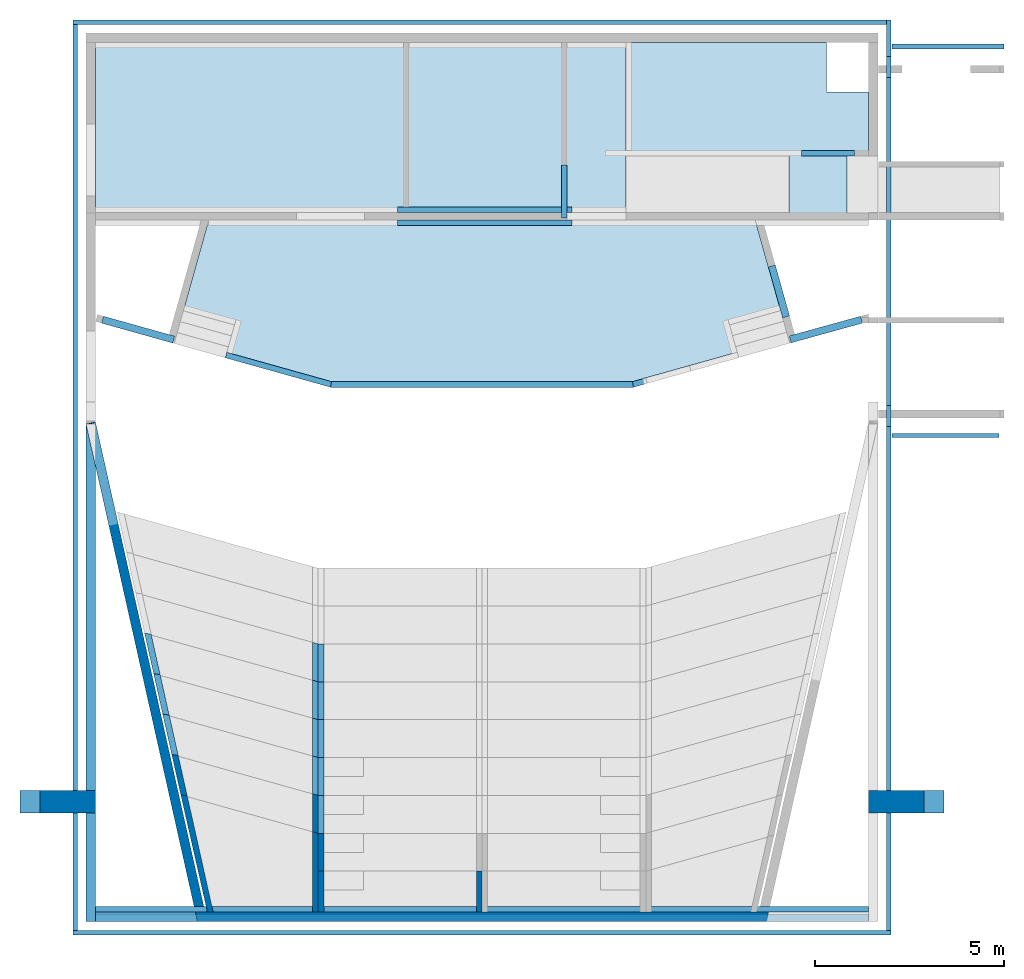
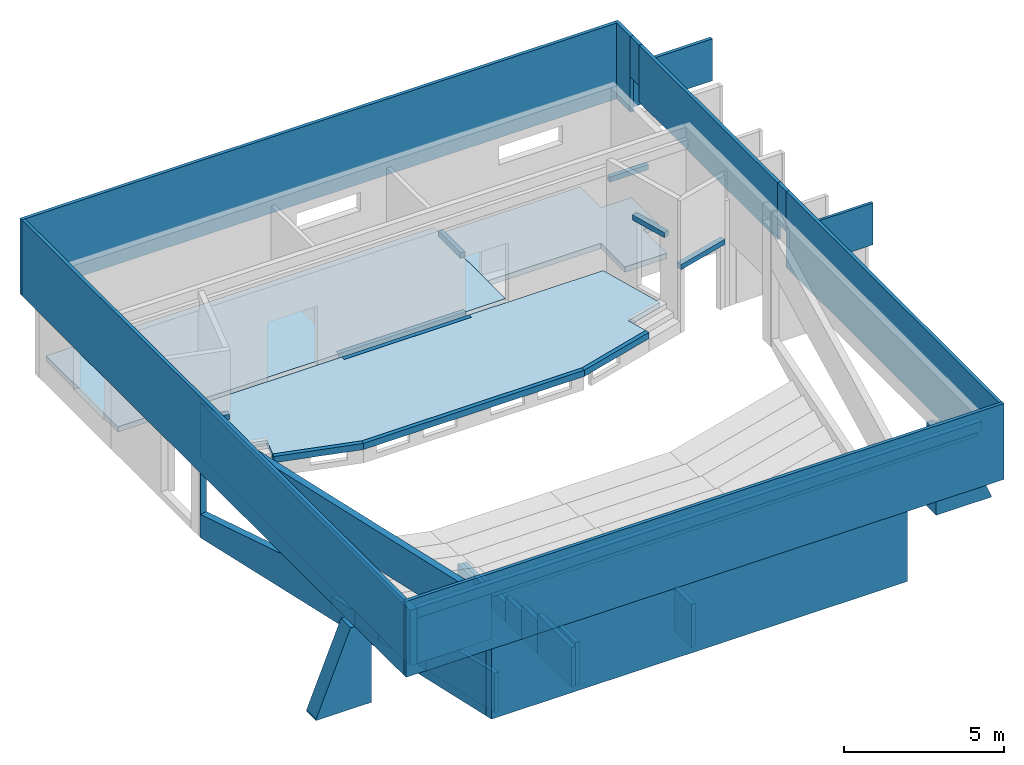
# One storey, part 1 of 5: 25 walls, 20 beams, 3 slabs, 2 columns, 1 opening.
"""IFC4 building model written with IfcOpenShell, lengths in metres."""

from ifc_helpers import new_model, entity, si_unit, converted_unit, derived_unit, frame, frame_2d, origin, origin_with_axes, place, context, subcontext, project, spatial, polyline, rectangle, outline, extrude, faceted_brep, material, element, save


model = new_model("IFC4")

# Units and contexts
model_context = context("Model", 3, precision=1e-05, world=origin())
plan_context = context("Plan", 2, precision=1e-05, world=origin())
body_context = subcontext(model_context, "Body", "Model", "MODEL_VIEW")
ifc_project = project(units=[si_unit("LENGTHUNIT", "METRE"), si_unit("AREAUNIT", "SQUARE_METRE"), si_unit("VOLUMEUNIT", "CUBIC_METRE"), si_unit("MASSUNIT", "GRAM", prefix="KILO"), converted_unit("PLANEANGLEUNIT", "DEGREE", entity("IfcPlaneAngleMeasure", 0.0174532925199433), si_unit("PLANEANGLEUNIT", "RADIAN"), dimensions=[0, 0, 0, 0, 0, 0, 0]), derived_unit("THERMALTRANSMITTANCEUNIT", [(si_unit("POWERUNIT", "WATT"), 1), (si_unit("THERMODYNAMICTEMPERATUREUNIT", "KELVIN"), -1), (si_unit("LENGTHUNIT", "METRE"), -2)]), derived_unit("VOLUMETRICFLOWRATEUNIT", [(si_unit("LENGTHUNIT", "METRE"), 3), (converted_unit("TIMEUNIT", "hour", entity("IfcTimeMeasure", 3600.0), si_unit("TIMEUNIT", "SECOND"), dimensions=[0, 0, 1, 0, 0, 0, 0]), -1), (si_unit("LENGTHUNIT", "METRE"), -1)])], contexts=[model_context, plan_context])

# Site, building, storey
site_placement = place(None, origin())
site = spatial("IfcSite", under=ifc_project, at=site_placement, Name="Site", CompositionType="ELEMENT")
building_placement = place(site_placement, origin())
building = spatial("IfcBuilding", under=site, at=building_placement, Name="Auditorium", CompositionType="ELEMENT")
storey_placement = place(building_placement, frame((0.0, 0.0, -0.26)))
storey = spatial("IfcBuildingStorey", under=building, at=storey_placement, Name="00-Rez", CompositionType="ELEMENT", Elevation=-0.26)

# Columns
ifc_material_1 = material(Name="Béton architectonique")
column_1_placement = place(storey_placement, frame((-1.99551190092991, 2.61, -0.15)))
element("IfcColumn", 1, at=column_1_placement, inside=storey, material=ifc_material_1, Name="Totem Audit.", PredefinedType="NOTDEFINED", context=body_context, shape_type="Brep", body=[
    faceted_brep([(0.0, 0.6, 0.0500000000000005), (0.0, 0.6, 2.27373675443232e-16), (1.9953125, 0.6, 0.0), (1.9953125, 0.6, 3.21), (1.7453125, 0.6, 3.21), (1.7453125, 0.6, 3.11), (1.2453125, 0.6, 3.11), (0.0, 0.0, 0.0500000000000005), (1.2453125, 0.0, 3.11), (1.7453125, 0.0, 3.11), (1.7453125, 0.0, 3.21), (1.9953125, 0.0, 3.21), (1.9953125, 0.0, 0.0), (0.0, 0.0, 2.27373675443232e-16)], [[[0, 1, 2, 3, 4, 5, 6]], [[7, 8, 9, 10, 11, 12, 13]], [[13, 1, 0, 7]], [[12, 2, 1, 13]], [[11, 3, 2, 12]], [[10, 4, 3, 11]], [[9, 5, 4, 10]], [[8, 6, 5, 9]], [[7, 0, 6, 8]]], orient=[[False], [False], [False], [False], [False], [False], [False], [False], [False]]),
])
ifc_material_2 = material(Name="Béton architectonique")
column_2_placement = place(storey_placement, frame((20.3998005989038, 2.60999999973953, -0.15)))
element("IfcColumn", 2, at=column_2_placement, inside=storey, material=ifc_material_2, Name="Totem Audit.", PredefinedType="NOTDEFINED", context=body_context, shape_type="Brep", body=[
    faceted_brep([(1.9953125, 0.6, 0.0500000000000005), (0.75, 0.6, 3.11), (0.25, 0.6, 3.11), (0.25, 0.6, 3.21), (0.0, 0.6, 3.21), (0.0, 0.6, 0.0), (1.9953125, 0.6, 2.27373675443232e-16), (1.9953125, 0.0, 0.0500000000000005), (1.9953125, 0.0, 2.27373675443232e-16), (0.0, 0.0, 0.0), (0.0, 0.0, 3.21), (0.25, 0.0, 3.21), (0.25, 0.0, 3.11), (0.75, 0.0, 3.11)], [[[0, 1, 2, 3, 4, 5, 6]], [[7, 8, 9, 10, 11, 12, 13]], [[13, 1, 0, 7]], [[12, 2, 1, 13]], [[11, 3, 2, 12]], [[10, 4, 3, 11]], [[9, 5, 4, 10]], [[8, 6, 5, 9]], [[7, 0, 6, 8]]], orient=[[False], [False], [False], [False], [False], [False], [False], [False], [False]]),
])

# Beams
ifc_material_3 = material(Name="Béton préfabriqué")
beam_1_placement = place(storey_placement, frame((12.2998005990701, 19.7195504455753, 2.98), z_axis=(0.0, 0.0, 1.0), x_axis=(0.0, -1.0, 0.0)))
element("IfcBeam", 3, at=beam_1_placement, inside=storey, material=ifc_material_3, PredefinedType="NOTDEFINED", context=body_context, shape_type="SweptSolid", body=[
    extrude(rectangle(XDim=0.15, YDim=0.2, at=frame_2d((0.075, 0.1), x_axis=(1.0, 0.0))), frame((0.0, 0.0, 0.0), z_axis=(1.0, 0.0, 0.0), x_axis=(0.0, 1.0, 0.0)), (0.0, 0.0, 1.0), 1.39999999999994),
])
ifc_material_4 = material(Name="Béton préfabriqué")
beam_2_placement = place(storey_placement, frame((18.6298005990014, 19.9594493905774, 2.66)))
element("IfcBeam", 4, at=beam_2_placement, inside=storey, material=ifc_material_4, PredefinedType="NOTDEFINED", context=body_context, shape_type="SweptSolid", body=[
    extrude(rectangle(XDim=0.15, YDim=0.2, at=frame_2d((0.075, 0.1), x_axis=(1.0, 0.0))), frame((0.0, 0.0, 0.0), z_axis=(1.0, 0.0, 0.0), x_axis=(0.0, 1.0, 0.0)), (0.0, 0.0, 1.0), 1.4),
])
ifc_material_5 = material(Name="Béton architectonique")
beam_3_placement = place(storey_placement, frame((20.8798005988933, 22.579449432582, 4.31), z_axis=(0.0, 0.0, 1.0), x_axis=(0.0, -1.0, 0.0)))
element("IfcBeam", 5, at=beam_3_placement, inside=storey, material=ifc_material_5, Name="Poutre Béton Archi. Audit.", PredefinedType="NOTDEFINED", context=body_context, shape_type="SweptSolid", body=[
    extrude(rectangle(XDim=0.12, YDim=1.55, at=frame_2d((0.06, 0.775), x_axis=(1.0, 0.0))), frame((0.0, 0.0, 0.0), z_axis=(1.0, 0.0, 0.0), x_axis=(0.0, 1.0, 0.0)), (0.0, 0.0, 1.0), 0.55),
])
ifc_material_6 = material(Name="Béton architectonique")
beam_4_placement = place(storey_placement, frame((20.8798005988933, 13.3694494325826, 4.31), z_axis=(0.0, 0.0, 1.0), x_axis=(0.0, -1.0, 0.0)))
element("IfcBeam", 6, at=beam_4_placement, inside=storey, material=ifc_material_6, Name="Poutre Béton Archi. Audit.", PredefinedType="NOTDEFINED", context=body_context, shape_type="SweptSolid", body=[
    extrude(rectangle(XDim=0.12, YDim=1.55, at=frame_2d((0.06, 0.775), x_axis=(1.0, 0.0))), frame((0.0, 0.0, 0.0), z_axis=(1.0, 0.0, 0.0), x_axis=(0.0, 1.0, 0.0)), (0.0, 0.0, 1.0), 0.55),
])
ifc_material_7 = material(Name="Béton architectonique")
beam_5_placement = place(storey_placement, frame((20.8798005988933, 12.8194494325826, 2.96), z_axis=(0.0, 0.0, 1.0), x_axis=(-2.73532240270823e-16, -1.0, 0.0)))
element("IfcBeam", 7, at=beam_5_placement, inside=storey, material=ifc_material_7, Name="Poutre Béton Archi. Audit.", PredefinedType="NOTDEFINED", context=body_context, shape_type="SweptSolid", body=[
    extrude(rectangle(XDim=0.12, YDim=2.9, at=frame_2d((0.06, 1.45), x_axis=(1.0, 0.0))), frame((0.0, 0.0, 0.0), z_axis=(1.0, 0.0, 0.0), x_axis=(0.0, 1.0, 0.0)), (0.0, 0.0, 1.0), 13.3000000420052),
])
ifc_material_8 = material(Name="Béton architectonique")
beam_6_placement = place(storey_placement, frame((-0.480199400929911, -0.480550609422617, 2.96), z_axis=(0.0, 0.0, 1.0), x_axis=(2.52003446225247e-16, 1.0, 0.0)))
element("IfcBeam", 8, at=beam_6_placement, inside=storey, material=ifc_material_8, Name="Poutre Béton Archi. Audit.", PredefinedType="NOTDEFINED", context=body_context, shape_type="SweptSolid", body=[
    extrude(rectangle(XDim=0.12, YDim=2.9, at=frame_2d((0.06, 1.45), x_axis=(1.0, 0.0))), frame((0.0, 0.0, 0.0), z_axis=(1.0, 0.0, 0.0), x_axis=(0.0, 1.0, 0.0)), (0.0, 0.0, 1.0), 23.91),
])
ifc_material_9 = material(Name="Béton architectonique")
beam_7_placement = place(storey_placement, frame((20.9998005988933, -0.480550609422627, 2.96), z_axis=(0.0, 0.0, 1.0), x_axis=(-1.0, 4.86853355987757e-16, 0.0)))
element("IfcBeam", 9, at=beam_7_placement, inside=storey, material=ifc_material_9, Name="Poutre Béton Archi. Audit.", PredefinedType="NOTDEFINED", context=body_context, shape_type="SweptSolid", body=[
    extrude(rectangle(XDim=0.12, YDim=2.9, at=frame_2d((0.0599999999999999, 1.45), x_axis=(1.0, 0.0))), frame((0.0, 0.0, 0.0), z_axis=(1.0, 0.0, 0.0), x_axis=(0.0, 1.0, 0.0)), (0.0, 0.0, 1.0), 21.5999999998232),
])
ifc_material_10 = material(Name="Béton architectonique")
beam_8_placement = place(storey_placement, frame((23.8497891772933, 12.6294494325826, 2.96), z_axis=(0.0, 0.0, 1.0), x_axis=(-1.0, 0.0, 0.0)))
element("IfcBeam", 10, at=beam_8_placement, inside=storey, material=ifc_material_10, Name="Poutre Béton Archi. Audit.", PredefinedType="NOTDEFINED", context=body_context, shape_type="SweptSolid", body=[
    extrude(rectangle(XDim=0.1, YDim=1.6, at=frame_2d((0.05, 0.8), x_axis=(1.0, 0.0))), frame((0.0, 0.0, 0.0), z_axis=(1.0, 0.0, 0.0), x_axis=(0.0, 1.0, 0.0)), (0.0, 0.0, 1.0), 2.82998857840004),
])
ifc_material_11 = material(Name="Béton architectonique")
beam_9_placement = place(storey_placement, frame((21.0197954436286, 22.7894430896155, 2.96), z_axis=(0.0, 0.0, 1.0), x_axis=(0.999999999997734, 2.12859804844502e-06, 0.0)))
element("IfcBeam", 11, at=beam_9_placement, inside=storey, material=ifc_material_11, Name="Poutre Béton Archi. Audit.", PredefinedType="NOTDEFINED", context=body_context, shape_type="SweptSolid", body=[
    extrude(rectangle(XDim=0.12, YDim=1.6, at=frame_2d((0.06, 0.8), x_axis=(1.0, 0.0))), frame((0.0, 0.0, 0.0), z_axis=(1.0, 0.0, 0.0), x_axis=(0.0, 1.0, 0.0)), (0.0, 0.0, 1.0), 2.96014386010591),
])
ifc_material_12 = material(Name="Béton architectonique")
beam_10_placement = place(storey_placement, frame((20.8798005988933, 23.5494493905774, 2.96), z_axis=(0.0, 0.0, 1.0), x_axis=(0.0, -1.0, 0.0)))
element("IfcBeam", 12, at=beam_10_placement, inside=storey, material=ifc_material_12, Name="Poutre Béton Archi. Audit.", PredefinedType="NOTDEFINED", context=body_context, shape_type="SweptSolid", body=[
    extrude(rectangle(XDim=0.12, YDim=2.9, at=frame_2d((0.06, 1.45), x_axis=(1.0, 0.0))), frame((0.0, 0.0, 0.0), z_axis=(1.0, 0.0, 0.0), x_axis=(0.0, 1.0, 0.0)), (0.0, 0.0, 1.0), 0.969999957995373),
])
ifc_material_13 = material(Name="Béton architectonique")
beam_11_placement = place(storey_placement, frame((-0.600199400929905, 23.4294493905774, 2.96)))
element("IfcBeam", 13, at=beam_11_placement, inside=storey, material=ifc_material_13, Name="Poutre Béton Archi. Audit.", PredefinedType="NOTDEFINED", context=body_context, shape_type="SweptSolid", body=[
    extrude(rectangle(XDim=0.12, YDim=2.9, at=frame_2d((0.06, 1.45), x_axis=(1.0, 0.0))), frame((0.0, 0.0, 0.0), z_axis=(1.0, 0.0, 0.0), x_axis=(0.0, 1.0, 0.0)), (0.0, 0.0, 1.0), 21.4799999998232),
])
ifc_material_14 = material(Name="Béton architectonique")
beam_12_placement = place(storey_placement, frame((20.8798005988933, 22.029449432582, 3.69), z_axis=(0.0, 0.0, 1.0), x_axis=(0.0, -1.0, 0.0)))
element("IfcBeam", 14, at=beam_12_placement, inside=storey, material=ifc_material_14, Name="Poutre Béton Archi. Audit.", PredefinedType="NOTDEFINED", context=body_context, shape_type="SweptSolid", body=[
    extrude(rectangle(XDim=0.12, YDim=2.17, at=frame_2d((0.06, 1.085), x_axis=(1.0, 0.0))), frame((0.0, 0.0, 0.0), z_axis=(1.0, 0.0, 0.0), x_axis=(0.0, 1.0, 0.0)), (0.0, 0.0, 1.0), 8.65999999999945),
])
ifc_material_15 = material(Name="Béton préfabriqué")
beam_13_placement = place(storey_placement, frame((2.08646157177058, 15.2042745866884, 2.41), z_axis=(0.0, 0.0, 1.0), x_axis=(-0.962981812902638, 0.269566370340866, 0.0)))
element("IfcBeam", 15, at=beam_13_placement, inside=storey, material=ifc_material_15, PredefinedType="NOTDEFINED", context=body_context, shape_type="SweptSolid", body=[
    extrude(rectangle(XDim=0.19, YDim=0.2, at=frame_2d((0.0950000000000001, 0.1), x_axis=(1.0, 0.0))), frame((0.0, 0.0, 0.0), z_axis=(1.0, 0.0, 0.0), x_axis=(0.0, 1.0, 0.0)), (0.0, 0.0, 1.0), 1.95),
])
ifc_material_16 = material(Name="Béton préfabriqué")
beam_14_placement = place(storey_placement, frame((18.3198635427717, 15.7358494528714, 3.31), z_axis=(0.0, 0.0, 1.0), x_axis=(-0.269566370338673, 0.962981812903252, 0.0)))
element("IfcBeam", 16, at=beam_14_placement, inside=storey, material=ifc_material_16, PredefinedType="NOTDEFINED", context=body_context, shape_type="SweptSolid", body=[
    extrude(rectangle(XDim=0.19, YDim=0.2, at=frame_2d((0.095, 0.1), x_axis=(1.0, 0.0))), frame((0.0, 0.0, 0.0), z_axis=(1.0, 0.0, 0.0), x_axis=(0.0, 1.0, 0.0)), (0.0, 0.0, 1.0), 1.39999956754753),
])
ifc_material_17 = material(Name="Béton préfabriqué")
beam_15_placement = place(storey_placement, frame((18.3617680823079, 15.0273418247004, 2.41), z_axis=(0.0, 0.0, 1.0), x_axis=(0.963880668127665, 0.266334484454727, 0.0)))
element("IfcBeam", 17, at=beam_15_placement, inside=storey, material=ifc_material_17, PredefinedType="NOTDEFINED", context=body_context, shape_type="SweptSolid", body=[
    extrude(rectangle(XDim=0.19, YDim=0.2, at=frame_2d((0.0950000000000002, 0.1), x_axis=(1.0, 0.0))), frame((0.0, 0.0, 0.0), z_axis=(1.0, 0.0, 0.0), x_axis=(0.0, 1.0, 0.0)), (0.0, 0.0, 1.0), 1.95),
])
ifc_material_18 = material(Name="C30/37")
beam_16_placement = place(storey_placement, frame((7.97480059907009, 18.1195504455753, 0.51)))
element("IfcBeam", 18, at=beam_16_placement, inside=storey, material=ifc_material_18, Name="PBA.0.04", PredefinedType="NOTDEFINED", context=body_context, shape_type="SweptSolid", body=[
    extrude(rectangle(XDim=0.15, YDim=0.24, at=frame_2d((0.075, 0.12), x_axis=(1.0, 0.0))), frame((0.0, 0.0, 0.0), z_axis=(1.0, 0.0, 0.0), x_axis=(0.0, 1.0, 0.0)), (0.0, 0.0, 1.0), 4.6),
])
ifc_material_19 = material(Name="C30/37")
beam_17_placement = place(storey_placement, frame((14.1747127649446, 13.8541506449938, 0.51)))
element("IfcBeam", 19, at=beam_17_placement, inside=storey, material=ifc_material_19, Name="PBA.0.03", PredefinedType="NOTDEFINED", context=body_context, shape_type="Brep", body=[
    faceted_brep([(0.0, 0.15, 0.0), (2.7610038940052, 0.922884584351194, 0.0), (2.7610038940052, 0.922884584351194, 0.24), (0.0, 0.15, 0.24), (2.80143884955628, 0.778437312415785, 0.0), (2.80143884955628, 0.778437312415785, 0.24), (0.0205987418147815, 0.0, 0.0), (0.0205987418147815, 0.0, 0.24)], [[[0, 1, 2, 3]], [[1, 4, 5, 2]], [[4, 6, 7, 5]], [[6, 0, 3, 7]], [[7, 3, 2, 5]], [[0, 6, 4, 1]]], orient=[[False], [False], [False], [False], [False], [False]]),
])
ifc_material_20 = material(Name="C30/37")
beam_18_placement = place(storey_placement, frame((6.2045530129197, 13.8541506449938, 0.51)))
element("IfcBeam", 20, at=beam_18_placement, inside=storey, material=ifc_material_20, Name="PBA.0.02", PredefinedType="NOTDEFINED", context=body_context, shape_type="Brep", body=[
    faceted_brep([(0.0205987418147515, 0.150000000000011, 0.0), (7.97015975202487, 0.15, 0.0), (7.97015975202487, 0.15, 0.24), (0.0205987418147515, 0.150000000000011, 0.24), (7.99075849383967, 0.0, 0.0), (7.99075849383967, 0.0, 0.24), (9.09494701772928e-16, 1.09139364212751e-14, 0.0), (9.09494701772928e-16, 1.09139364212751e-14, 0.24)], [[[0, 1, 2, 3]], [[1, 4, 5, 2]], [[4, 6, 7, 5]], [[6, 0, 3, 7]], [[7, 3, 2, 5]], [[0, 6, 4, 1]]], orient=[[False], [False], [False], [False], [False], [False]]),
])
ifc_material_21 = material(Name="C30/37")
beam_19_placement = place(storey_placement, frame((3.42375991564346, 13.8541506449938, 0.51)))
element("IfcBeam", 21, at=beam_19_placement, inside=storey, material=ifc_material_21, Name="PBA.0.01", PredefinedType="NOTDEFINED", context=body_context, shape_type="Brep", body=[
    faceted_brep([(0.0404349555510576, 0.922871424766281, 0.0), (2.801391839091, 0.15, 0.0), (2.801391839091, 0.15, 0.24), (0.0404349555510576, 0.922871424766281, 0.24), (2.78079309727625, 0.0, 0.0), (2.78079309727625, 0.0, 0.24), (-4.54747350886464e-16, 0.778424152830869, 0.0), (-4.54747350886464e-16, 0.778424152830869, 0.24)], [[[0, 1, 2, 3]], [[1, 4, 5, 2]], [[4, 6, 7, 5]], [[6, 0, 3, 7]], [[7, 3, 2, 5]], [[0, 6, 4, 1]]], orient=[[False], [False], [False], [False], [False], [False]]),
])
ifc_material_22 = material(Name="C30/37")
beam_20_placement = place(storey_placement, frame((7.97480059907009, 18.4695504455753, 0.51)))
element("IfcBeam", 22, at=beam_20_placement, inside=storey, material=ifc_material_22, Name="PBA.0.05", PredefinedType="NOTDEFINED", context=body_context, shape_type="SweptSolid", body=[
    extrude(rectangle(XDim=0.15, YDim=0.24, at=frame_2d((0.075, 0.12), x_axis=(1.0, 0.0))), frame((0.0, 0.0, 0.0), z_axis=(1.0, 0.0, 0.0), x_axis=(0.0, 1.0, 0.0)), (0.0, 0.0, 1.0), 4.6),
])

# Slabs
ifc_material_23 = material(Name="Dalle BA 20 cm")
slab_1_placement = place(storey_placement, frame((13.9998005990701, 18.4594493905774, 0.25)))
element("IfcSlab", 23, at=slab_1_placement, inside=storey, material=ifc_material_23, Name="Dalle BA 20 cm Audit.", PredefinedType="FLOOR", context=body_context, shape_type="SweptSolid", body=[
    extrude(outline(polyline([(6.3999999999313, 1.5), (6.3999999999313, 3.19), (5.2999999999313, 3.19), (5.2999999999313, 4.4961953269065), (0.0, 4.4961953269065), (0.0, 1.5), (4.3099999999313, 1.5), (4.3099999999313, 0.0), (5.8299999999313, 0.0), (5.8299999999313, 1.5), (6.3999999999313, 1.5)])), origin_with_axes(), (0.0, 0.0, 1.0), 0.2),
])
ifc_material_24 = material(Name="Hourdis BA 16+4")
slab_2_placement = place(storey_placement, frame((2.31495150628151, 14.0041505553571, 0.55)))
element("IfcSlab", 24, at=slab_2_placement, inside=storey, material=ifc_material_24, Name="Hourdis BA 16+4", PredefinedType="FLOOR", context=body_context, shape_type="SweptSolid", body=[
    extrude(outline(polyline([(5.65984909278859, 4.26539989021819), (0.671106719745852, 4.26539989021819), (0.000711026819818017, 1.87052081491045), (0.0, 1.86798078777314), (1.35126591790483, 1.49456407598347), (1.14924336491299, 0.772871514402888), (3.9103390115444, 0.0), (11.8597612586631, 8.96366600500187e-08), (14.6207651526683, 0.77288467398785), (14.4186058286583, 1.49514369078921), (15.7680816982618, 1.87290088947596), (15.0983522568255, 4.26539989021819), (10.2598490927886, 4.26539989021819), (10.2598490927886, 4.11539989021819), (5.65984909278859, 4.11539989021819), (5.65984909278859, 4.26539989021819)])), origin_with_axes(), (0.0, 0.0, 1.0), 0.2),
])
ifc_material_25 = material(Name="Hourdis BA 16+4")
slab_3_placement = place(storey_placement, frame((-0.000199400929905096, 18.4695504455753, 0.55)))
element("IfcSlab", 25, at=slab_3_placement, inside=storey, material=ifc_material_25, Name="Hourdis BA 16+4", PredefinedType="FLOOR", context=body_context, shape_type="SweptSolid", body=[
    extrude(outline(polyline([(12.575, 0.0), (14.0, 0.0), (14.0, 4.49), (0.0, 4.49), (0.0, 0.0), (7.975, 0.0), (7.975, 0.15), (12.575, 0.15), (12.575, 0.0)])), origin_with_axes(), (0.0, 0.0, 1.0), 0.2),
])

# Walls
ifc_material_26 = material(Name="C30/37")
wall_1_placement = place(storey_placement, frame((-0.250199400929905, 12.8894493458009, 3.06), z_axis=(0.0, 0.0, 1.0), x_axis=(-2.42255058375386e-16, -1.0, 0.0)))
element("IfcWall", 26, at=wall_1_placement, inside=storey, material=ifc_material_26, Name="Voile BA Axe 1.A", context=body_context, shape_type="SweptSolid", body=[
    extrude(outline(polyline([(-13.1399999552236, -4.03896783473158e-31), (0.0, 0.0), (-6.05637645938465e-17, 0.25), (-12.0226548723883, 0.25), (-13.1399999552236, -4.03896783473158e-31)])), frame((13.1399999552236, 4.03896783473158e-31, 0.0), z_axis=(0.0, 0.0, 1.0), x_axis=(1.0, 0.0, 0.0)), (0.0, 0.0, 1.0), 2.12),
])
ifc_material_27 = material(Name="C30/37")
wall_2_placement = place(storey_placement, frame((2.68980059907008, -0.250550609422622, 0.0)))
element("IfcWall", 27, at=wall_2_placement, inside=storey, material=ifc_material_27, Name="Voile BA Axe 1.1", context=body_context, shape_type="SweptSolid", body=[
    extrude(outline(polyline([(0.0559360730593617, 0.0), (15.0759360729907, 0.0), (15.1318721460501, 0.25), (0.0, 0.25), (0.0559360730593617, 0.0)])), frame((-0.0559360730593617, 0.0, 0.0), z_axis=(0.0, 0.0, 1.0), x_axis=(1.0, 0.0, 0.0)), (0.0, 0.0, 1.0), 4.8),
])
ifc_material_28 = material(Name="C30/37")
wall_3_placement = place(storey_placement, frame((-0.000199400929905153, -0.250550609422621, 3.06), z_axis=(0.0, 0.0, 1.0), x_axis=(1.0, -2.53576589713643e-16, 0.0)))
element("IfcWall", 28, at=wall_3_placement, inside=storey, material=ifc_material_28, Name="Voile BA Axe 1.1", context=body_context, shape_type="SweptSolid", body=[
    extrude(outline(polyline([(-1.72969923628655e-31, 6.82121026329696e-16), (2.68999999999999, 6.82121026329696e-16), (2.63406392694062, 0.250000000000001), (-2.07615832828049e-17, 0.250000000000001), (-1.72969923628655e-31, 6.82121026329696e-16)])), frame((1.72969923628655e-31, -6.82121026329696e-16, 0.0), z_axis=(0.0, 0.0, 1.0), x_axis=(1.0, 0.0, 0.0)), (0.0, 0.0, 1.0), 1.74),
])
ifc_material_29 = material(Name="C30/37")
wall_4_placement = place(storey_placement, frame((-0.000199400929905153, -0.250550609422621, 4.8), z_axis=(0.0, 0.0, 1.0), x_axis=(1.0, -1.56040757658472e-16, 0.0)))
element("IfcWall", 29, at=wall_4_placement, inside=storey, material=ifc_material_29, Name="Voile BA Axe 1.1", context=body_context, shape_type="SweptSolid", body=[
    extrude(rectangle(XDim=20.3999999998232, YDim=0.2, at=frame_2d((10.1999999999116, 0.1), x_axis=(1.0, 0.0))), origin_with_axes(), (0.0, 0.0, 1.0), 0.38),
])
ifc_material_30 = material(Name="C30/37")
wall_5_placement = place(storey_placement, frame((-0.000199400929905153, -0.000550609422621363, 4.46), z_axis=(0.0, 0.0, 1.0), x_axis=(1.0, -1.56040757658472e-16, 0.0)))
element("IfcWall", 30, at=wall_5_placement, inside=storey, material=ifc_material_30, Name="Voile BA Axe 1.1", context=body_context, shape_type="SweptSolid", body=[
    extrude(rectangle(XDim=20.3999999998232, YDim=0.15, at=frame_2d((10.1999999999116, 0.075), x_axis=(1.0, 0.0))), origin_with_axes(), (0.0, 0.0, 1.0), 0.34),
])
ifc_material_31 = material(Name="Silico-calcaire 15 cm")
wall_6_placement = place(storey_placement, frame((6.02480299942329, 6.07951718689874, 0.0), z_axis=(0.0, 0.0, 1.0), x_axis=(0.0, 1.0, 0.0)))
element("IfcWall", 31, at=wall_6_placement, inside=storey, material=ifc_material_31, Name="Maçonnerie Audit.", context=body_context, shape_type="SweptSolid", body=[
    extrude(rectangle(XDim=1.0, YDim=0.149999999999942, at=frame_2d((0.5, 0.0749999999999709), x_axis=(1.0, 0.0))), origin_with_axes(), (0.0, 0.0, 1.0), 0.41),
])
ifc_material_32 = material(Name="Silico-calcaire 15 cm")
wall_7_placement = place(storey_placement, frame((6.02480299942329, 5.07951718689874, 0.0), z_axis=(0.0, 0.0, 1.0), x_axis=(0.0, 1.0, 0.0)))
element("IfcWall", 32, at=wall_7_placement, inside=storey, material=ifc_material_32, Name="Maçonnerie Audit.", context=body_context, shape_type="SweptSolid", body=[
    extrude(rectangle(XDim=1.0, YDim=0.149999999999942, at=frame_2d((0.5, 0.0749999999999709), x_axis=(1.0, 0.0))), origin_with_axes(), (0.0, 0.0, 1.0), 0.56),
])
ifc_material_33 = material(Name="Silico-calcaire 15 cm")
wall_8_placement = place(storey_placement, frame((6.02480299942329, 4.07951718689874, 0.0), z_axis=(0.0, 0.0, 1.0), x_axis=(0.0, 1.0, 0.0)))
element("IfcWall", 33, at=wall_8_placement, inside=storey, material=ifc_material_33, Name="Maçonnerie Audit.", context=body_context, shape_type="SweptSolid", body=[
    extrude(rectangle(XDim=1.0, YDim=0.149999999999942, at=frame_2d((0.5, 0.0749999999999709), x_axis=(1.0, 0.0))), origin_with_axes(), (0.0, 0.0, 1.0), 0.71),
])
ifc_material_34 = material(Name="Silico-calcaire 15 cm")
wall_9_placement = place(storey_placement, frame((6.02480299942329, 3.07951718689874, 0.0), z_axis=(0.0, 0.0, 1.0), x_axis=(0.0, 1.0, 0.0)))
element("IfcWall", 34, at=wall_9_placement, inside=storey, material=ifc_material_34, Name="Maçonnerie Audit.", context=body_context, shape_type="SweptSolid", body=[
    extrude(rectangle(XDim=1.0, YDim=0.149999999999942, at=frame_2d((0.5, 0.0749999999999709), x_axis=(1.0, 0.0))), origin_with_axes(), (0.0, 0.0, 1.0), 0.845),
])
ifc_material_35 = material(Name="Silico-calcaire 15 cm")
wall_10_placement = place(storey_placement, frame((6.02480299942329, 1.07951718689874, 0.0), z_axis=(0.0, 0.0, 1.0), x_axis=(0.0, 1.0, 0.0)))
element("IfcWall", 35, at=wall_10_placement, inside=storey, material=ifc_material_35, Name="Maçonnerie Audit.", context=body_context, shape_type="SweptSolid", body=[
    extrude(rectangle(XDim=1.0, YDim=0.149999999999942, at=frame_2d((0.5, 0.0749999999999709), x_axis=(1.0, 0.0))), origin_with_axes(), (0.0, 0.0, 1.0), 1.385),
])
ifc_material_36 = material(Name="Silico-calcaire 15 cm")
wall_11_placement = place(storey_placement, frame((6.02480299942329, 2.07951718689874, 0.0), z_axis=(0.0, 0.0, 1.0), x_axis=(0.0, 1.0, 0.0)))
element("IfcWall", 36, at=wall_11_placement, inside=storey, material=ifc_material_36, Name="Maçonnerie Audit.", context=body_context, shape_type="SweptSolid", body=[
    extrude(rectangle(XDim=1.0, YDim=0.149999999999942, at=frame_2d((0.5, 0.0749999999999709), x_axis=(1.0, 0.0))), origin_with_axes(), (0.0, 0.0, 1.0), 1.115),
])
ifc_material_37 = material(Name="Silico-calcaire 15 cm")
wall_12_placement = place(storey_placement, frame((6.02480299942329, -0.000550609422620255, 0.0), z_axis=(0.0, 0.0, 1.0), x_axis=(0.0, 1.0, 0.0)))
element("IfcWall", 37, at=wall_12_placement, inside=storey, material=ifc_material_37, Name="Maçonnerie Audit.", context=body_context, shape_type="SweptSolid", body=[
    extrude(rectangle(XDim=1.08006779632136, YDim=0.149999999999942, at=frame_2d((0.540033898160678, 0.0749999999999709), x_axis=(1.0, 0.0))), origin_with_axes(), (0.0, 0.0, 1.0), 1.655),
])
ifc_material_38 = material(Name="Silico-calcaire 15 cm")
wall_13_placement = place(storey_placement, frame((5.87480299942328, 6.07951718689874, 0.0), z_axis=(0.0, 0.0, 1.0), x_axis=(0.0, 1.0, 0.0)))
element("IfcWall", 38, at=wall_13_placement, inside=storey, material=ifc_material_38, Name="Maçonnerie Audit.", context=body_context, shape_type="SweptSolid", body=[
    extrude(outline(polyline([(0.0, -0.149999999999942), (1.0, -0.149999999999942), (1.042040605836, 0.0), (0.0420406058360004, 0.0), (0.0, -0.149999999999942)])), frame((0.0, 0.149999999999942, 0.0), z_axis=(0.0, 0.0, 1.0), x_axis=(1.0, 0.0, 0.0)), (0.0, 0.0, 1.0), 0.41),
])
ifc_material_39 = material(Name="Silico-calcaire 15 cm")
wall_14_placement = place(storey_placement, frame((5.87480299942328, 5.07951718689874, 0.0), z_axis=(0.0, 0.0, 1.0), x_axis=(0.0, 1.0, 0.0)))
element("IfcWall", 39, at=wall_14_placement, inside=storey, material=ifc_material_39, Name="Maçonnerie Audit.", context=body_context, shape_type="SweptSolid", body=[
    extrude(outline(polyline([(0.0, -0.149999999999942), (1.0, -0.149999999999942), (1.042040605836, 0.0), (0.0420406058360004, 0.0), (0.0, -0.149999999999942)])), frame((0.0, 0.149999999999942, 0.0), z_axis=(0.0, 0.0, 1.0), x_axis=(1.0, 0.0, 0.0)), (0.0, 0.0, 1.0), 0.56),
])
ifc_material_40 = material(Name="Silico-calcaire 15 cm")
wall_15_placement = place(storey_placement, frame((5.87480299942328, 4.07951718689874, 0.0), z_axis=(0.0, 0.0, 1.0), x_axis=(0.0, 1.0, 0.0)))
element("IfcWall", 40, at=wall_15_placement, inside=storey, material=ifc_material_40, Name="Maçonnerie Audit.", context=body_context, shape_type="SweptSolid", body=[
    extrude(outline(polyline([(0.0, -0.149999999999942), (1.0, -0.149999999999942), (1.042040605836, 0.0), (0.0420406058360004, 0.0), (0.0, -0.149999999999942)])), frame((0.0, 0.149999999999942, 0.0), z_axis=(0.0, 0.0, 1.0), x_axis=(1.0, 0.0, 0.0)), (0.0, 0.0, 1.0), 0.71),
])
ifc_material_41 = material(Name="Silico-calcaire 15 cm")
wall_16_placement = place(storey_placement, frame((5.87480299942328, 2.07951718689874, 0.0), z_axis=(0.0, 0.0, 1.0), x_axis=(0.0, 1.0, 0.0)))
element("IfcWall", 41, at=wall_16_placement, inside=storey, material=ifc_material_41, Name="Maçonnerie Audit.", context=body_context, shape_type="SweptSolid", body=[
    extrude(outline(polyline([(0.0, -0.149999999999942), (1.0, -0.149999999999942), (1.042040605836, 0.0), (0.0420406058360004, 0.0), (0.0, -0.149999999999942)])), frame((0.0, 0.149999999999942, 0.0), z_axis=(0.0, 0.0, 1.0), x_axis=(1.0, 0.0, 0.0)), (0.0, 0.0, 1.0), 1.25),
])
ifc_material_42 = material(Name="Silico-calcaire 15 cm")
wall_17_placement = place(storey_placement, frame((5.87480299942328, 3.07951718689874, -5.6843418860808e-17), z_axis=(0.0, 0.0, 1.0), x_axis=(0.0, 1.0, 0.0)))
element("IfcWall", 42, at=wall_17_placement, inside=storey, material=ifc_material_42, Name="Maçonnerie Audit.", context=body_context, shape_type="SweptSolid", body=[
    extrude(outline(polyline([(0.0, -0.149999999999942), (1.0, -0.149999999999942), (1.042040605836, 0.0), (0.0420406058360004, 0.0), (0.0, -0.149999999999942)])), frame((0.0, 0.149999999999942, 0.0), z_axis=(0.0, 0.0, 1.0), x_axis=(1.0, 0.0, 0.0)), (0.0, 0.0, 1.0), 0.98),
])
ifc_material_43 = material(Name="Silico-calcaire 15 cm")
wall_18_placement = place(storey_placement, frame((5.87480299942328, -0.000550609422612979, 0.0), z_axis=(0.0, 0.0, 1.0), x_axis=(0.0, 1.0, 0.0)))
element("IfcWall", 43, at=wall_18_placement, inside=storey, material=ifc_material_43, Name="Maçonnerie Audit.", context=body_context, shape_type="SweptSolid", body=[
    extrude(outline(polyline([(0.0, -0.149999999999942), (2.08006779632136, -0.149999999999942), (2.12210840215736, 0.0), (4.54747350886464e-16, 0.0), (0.0, -0.149999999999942)])), frame((0.0, 0.149999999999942, 0.0), z_axis=(0.0, 0.0, 1.0), x_axis=(1.0, 0.0, 0.0)), (0.0, 0.0, 1.0), 1.52),
])
ifc_material_44 = material(Name="Silico-calcaire 15 cm")
wall_19_placement = place(storey_placement, frame((10.1998029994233, -0.00055060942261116, 0.0), z_axis=(0.0, 0.0, 1.0), x_axis=(0.0, 1.0, 0.0)))
element("IfcWall", 44, at=wall_19_placement, inside=storey, material=ifc_material_44, Name="Maçonnerie Audit.", context=body_context, shape_type="SweptSolid", body=[
    extrude(rectangle(XDim=1.08006779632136, YDim=0.149999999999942, at=frame_2d((0.540033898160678, 0.0749999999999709), x_axis=(1.0, 0.0))), origin_with_axes(), (0.0, 0.0, 1.0), 1.655),
])
ifc_material_45 = material(Name="Silico-calcaire 15 cm")
wall_20_placement = place(storey_placement, frame((1.70551275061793, 6.26601160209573, 0.0), z_axis=(0.0, 0.0, 1.0), x_axis=(-0.217991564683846, 0.975950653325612, 0.0)))
element("IfcWall", 45, at=wall_20_placement, inside=storey, material=ifc_material_45, Name="Maçonnerie Audit.", context=body_context, shape_type="SweptSolid", body=[
    extrude(outline(polyline([(-0.089850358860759, -0.402261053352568), (1.0032202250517, -0.402261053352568), (1.06967689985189, -0.238926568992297), (-0.0235942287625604, -0.239465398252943), (-0.089850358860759, -0.402261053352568)])), frame((0.089850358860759, 0.402261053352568, 0.0), z_axis=(0.0, 0.0, 1.0), x_axis=(1.0, 0.0, 0.0)), (0.0, 0.0, 1.0), 0.56),
])
ifc_material_46 = material(Name="Silico-calcaire 15 cm")
wall_21_placement = place(storey_placement, frame((1.94379291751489, 5.19922865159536, 0.0), z_axis=(0.0, 0.0, 1.0), x_axis=(-0.217991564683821, 0.975950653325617, 0.0)))
element("IfcWall", 46, at=wall_21_placement, inside=storey, material=ifc_material_46, Name="Maçonnerie Audit.", context=body_context, shape_type="SweptSolid", body=[
    extrude(outline(polyline([(-0.0897261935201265, -0.401705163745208), (1.00334439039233, -0.401705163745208), (1.06960052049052, -0.238909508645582), (-0.023670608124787, -0.239448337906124), (-0.0897261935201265, -0.401705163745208)])), frame((0.0897261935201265, 0.401705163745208, 0.0), z_axis=(0.0, 0.0, 1.0), x_axis=(1.0, 0.0, 0.0)), (0.0, 0.0, 1.0), 0.71),
])
ifc_material_47 = material(Name="Silico-calcaire 15 cm")
wall_22_placement = place(storey_placement, frame((2.18207308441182, 4.13244570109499, -5.6843418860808e-17), z_axis=(0.0, 0.0, 1.0), x_axis=(-0.217991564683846, 0.975950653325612, 0.0)))
element("IfcWall", 47, at=wall_22_placement, inside=storey, material=ifc_material_47, Name="Maçonnerie Audit.", context=body_context, shape_type="SweptSolid", body=[
    extrude(outline(polyline([(-0.0896020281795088, -0.401149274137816), (1.00346855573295, -0.401149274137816), (1.0695241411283, -0.238892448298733), (-0.0237469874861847, -0.239431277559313), (-0.0896020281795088, -0.401149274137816)])), frame((0.0896020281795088, 0.401149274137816, 0.0), z_axis=(0.0, 0.0, 1.0), x_axis=(1.0, 0.0, 0.0)), (0.0, 0.0, 1.0), 0.98),
])
ifc_material_48 = material(Name="Silico-calcaire 15 cm")
wall_23_placement = place(storey_placement, frame((3.10523280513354, -0.000550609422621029, 0.0), z_axis=(0.0, 0.0, 1.0), x_axis=(-0.217991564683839, 0.975950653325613, 0.0)))
element("IfcWall", 48, at=wall_23_placement, inside=storey, material=ifc_material_48, Name="Maçonnerie Audit.", context=body_context, shape_type="SweptSolid", body=[
    extrude(outline(polyline([(-0.186707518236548, -0.835891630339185), (2.95506337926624, -0.835891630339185), (3.02069536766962, -0.674712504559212), (-0.15320302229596, -0.685891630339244), (-0.186707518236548, -0.835891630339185)])), frame((0.186707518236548, 0.835891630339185, 0.0), z_axis=(0.0, 0.0, 1.0), x_axis=(1.0, 0.0, 0.0)), (0.0, 0.0, 1.0), 1.52),
])
ifc_material_49 = material(Name="Silico-calcaire 15 cm")
wall_24_placement = place(storey_placement, frame((2.42035325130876, 3.06566275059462, 0.0), z_axis=(0.0, 0.0, 1.0), x_axis=(-0.217991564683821, 0.975950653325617, 0.0)))
element("IfcWall", 49, at=wall_24_placement, inside=storey, material=ifc_material_49, Name="Maçonnerie Audit.", context=body_context, shape_type="SweptSolid", body=[
    extrude(outline(polyline([(-0.0894778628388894, -0.400593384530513), (1.00359272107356, -0.400593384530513), (1.06944776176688, -0.238875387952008), (-0.0238458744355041, -0.239414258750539), (-0.0894778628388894, -0.400593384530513)])), frame((0.0894778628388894, 0.400593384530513, 0.0), z_axis=(0.0, 0.0, 1.0), x_axis=(1.0, 0.0, 0.0)), (0.0, 0.0, 1.0), 1.25),
])

# Wall, opening
ifc_material_50 = material(Name="C30/37")
wall_25_placement = place(storey_placement, frame((2.89005059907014, -0.000550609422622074, 0.0), z_axis=(0.0, 0.0, 1.0), x_axis=(-0.218346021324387, 0.975871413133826, 0.0)))
wall_25 = element("IfcWall", 50, at=wall_25_placement, inside=storey, material=ifc_material_50, Name="Voile BA oblique Axe 1.A", context=body_context, shape_type="SweptSolid", body=[
    extrude(outline(polyline([(2.48135601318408, -3.06447663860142), (12.578070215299, -3.06448020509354), (12.578070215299, -2.82273545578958), (12.578982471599, -2.81448020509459), (2.48135601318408, -2.81447663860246), (-0.629724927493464, -2.81448020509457), (-0.685661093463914, -3.06448020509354), (2.48135601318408, -3.06447663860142)])), frame((0.685661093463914, 3.06448020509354, 0.0), z_axis=(0.0, 0.0, 1.0), x_axis=(1.0, 0.0, 0.0)), (0.0, 0.0, 1.0), 4.46),
])
opening_placement = place(wall_25_placement, frame((3.16701710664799, 3.56649211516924e-06, 0.888997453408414), z_axis=(3.5387433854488e-07, 0.999999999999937, 0.0), x_axis=(0.0, 0.0, 1.0)))
element("IfcOpeningElement", 51, at=opening_placement, cuts=wall_25, Name="Baie de fenêtre", ObjectType="Opening", context=body_context, shape_type="SweptSolid", body=[
    extrude(outline(polyline([(0.0, 10.0784141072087), (2.12100254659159, 10.0784141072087), (2.12100254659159, 0.0), (1.15167671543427, 0.0), (0.0, 10.0784141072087)])), origin_with_axes(), (0.0, 0.0, 1.0), 0.249999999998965),
])

save(model, "model.ifc")
